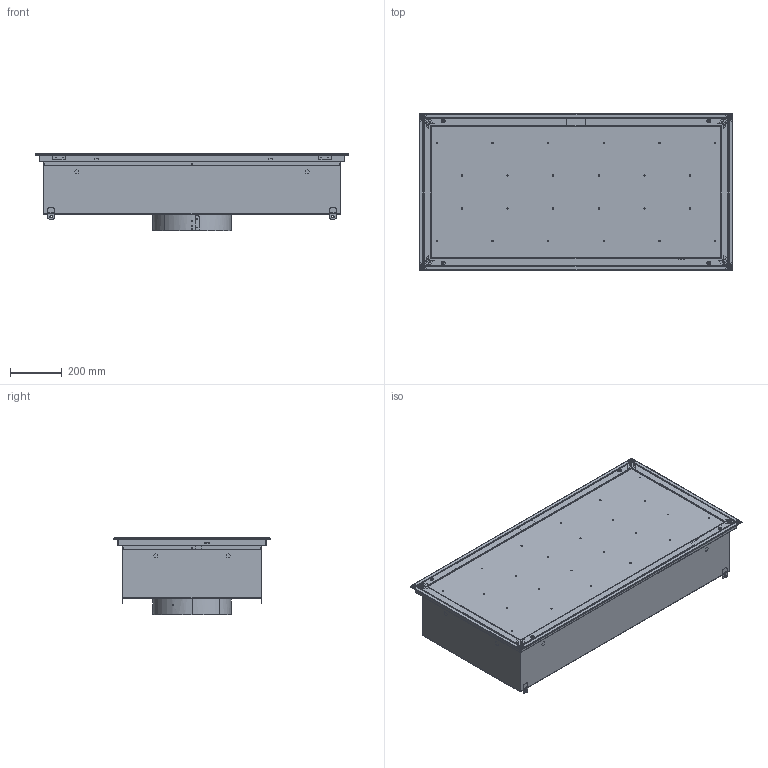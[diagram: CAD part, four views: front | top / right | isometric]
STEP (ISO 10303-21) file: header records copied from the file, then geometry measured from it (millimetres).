
FILE_DESCRIPTION (( 'STEP AP214' ), '1' );
FILE_NAME ('48 X 24_FRD-HEPA_.STEP', '2025-07-25T18:57:50', ( '' ), ( '' ), 'SwSTEP 2.0', 'SolidWorks 2024', '' );
FILE_SCHEMA (( 'AUTOMOTIVE_DESIGN' ));
Length unit declared in the file: inch
Products named in the file (39): 061325-FRDs_H1Z26_L04_LABEL; "CONCENTRATION"; 061325-FRDs_R2C1-SUB_L04; 061325-FRDs_H1Z24_L04; 061325-FRDs_H1E2_L04; 061325-FRDs_PLASTER-SUB_L04; 061325-FRDs_H1N2_L04; 061325-FRDs_FP1B-SUB_L04; 061325-FRDs_FP1B20-A3_L04; 061325-FRDs_H2E2_L04_WELD CLIP, BOB FRAME; 061325-FRDs_H1E1_L04; 061325-FRDs_Port-SUB_L04; 061325-FRDs_FACE-SUB_L04; 061325-FRDs_FP1B20-A1_L04; 061325-FRDs_FP1B20-A2_L04; 061325-FRDs_FC3E-A2_L04; 061325-FRDs_H2G12_L04; 061325-FRDs_P1B1B_L04; 061325-FRDs_FC3E-A4_L04; 061325-FRDs_H1F1_L04_1_4 TURN SPRING; 061325-FRDs_PLENUM MASTER_L04; 061325-FRDs_H1E3_L04; 061325-FRDs_R2C1_L04; 061325-FRDs_H2E5_L04; 061325-FRDs_FC3E-A3_L04; 061325-FRDs_P1B1B-SUB_L04; 061325-FRDs_H2E11_L04_GUIDE, HEPA FILTER, SWING ARM; 061325-FRDs_H1Z25_L04_LABEL; "CHALLENGE."; 48 X 24_FRD-HEPA_; 061325-FRDs_PERF-SUB_L04; 061325-FRDs_H1P11_L04; 061325-FRDs_H2E1_L04_WELD CLIP; 40º BEVEL FRAME; 061325-FRDs_H1V31_L04_WASHER, TEFLON: 0.50"OD x 0.25"ID x 0.025"th; 061325-FRDs_H2E12_L04_CLIP, HEPA FILTER, SWING ARM; 061325-FRDs_FP1B20-A4_L04; 061325-FRDs_FC3E-A1_L04; 061325-FRDs_SAFETYCABLE-ASSY_L04; 061325-FRDs_H1T7_L04_9531K23; 061325-FRDs_C1C1C112_L04; 061325-FRDs_FC3E-SUB_L04
Assembly tree (76 placements, depth 5):
  48 X 24_FRD-HEPA_
    061325-FRDs_PLASTER-SUB_L04
      061325-FRDs_FC3E-SUB_L04
        061325-FRDs_FC3E-A1_L04
        061325-FRDs_FC3E-A2_L04
        061325-FRDs_FC3E-A3_L04
        061325-FRDs_FC3E-A4_L04
        061325-FRDs_H2E2_L04_WELD CLIP, BOB FRAME  x4
        061325-FRDs_H2G12_L04  x4
        061325-FRDs_H1F1_L04_1_4 TURN SPRING  x4
        061325-FRDs_H2E11_L04_GUIDE, HEPA FILTER, SWING ARM  x6
        061325-FRDs_H2E12_L04_CLIP, HEPA FILTER, SWING ARM  x6
        061325-FRDs_H1V31_L04_WASHER, TEFLON: 0.50"OD x 0.25"ID x 0.025"th  x6
        061325-FRDs_H1Z25_L04_LABEL; "CHALLENGE."
        061325-FRDs_H1Z26_L04_LABEL; "CONCENTRATION"
      061325-FRDs_Port-SUB_L04  x2
        061325-FRDs_H1P11_L04
        061325-FRDs_H1T7_L04_9531K23
    061325-FRDs_FACE-SUB_L04
      061325-FRDs_FP1B-SUB_L04
        061325-FRDs_FP1B20-A1_L04
        061325-FRDs_FP1B20-A2_L04
        061325-FRDs_FP1B20-A3_L04
        061325-FRDs_FP1B20-A4_L04
        061325-FRDs_H2E1_L04_WELD CLIP; 40º BEVEL FRAME  x4
        061325-FRDs_H1E1_L04  x4
        061325-FRDs_H1E2_L04  x4
        061325-FRDs_SAFETYCABLE-ASSY_L04  x2
          061325-FRDs_H1N2_L04
          061325-FRDs_H1E3_L04
        061325-FRDs_H1Z24_L04
    061325-FRDs_PERF-SUB_L04
      061325-FRDs_R2C1-SUB_L04
        061325-FRDs_R2C1_L04
    061325-FRDs_PLENUM MASTER_L04
      061325-FRDs_P1B1B-SUB_L04
        061325-FRDs_P1B1B_L04
        061325-FRDs_H2E5_L04  x4
    061325-FRDs_C1C1C112_L04
Bounding box: 1212.85 x 603.25 x 299.81 mm (x, y, z)
Volume: 2111417.5 mm3; surface area: 5065802.7 mm2
Topology: 76 solids, 76 shells, 2656 faces, 6446 edges, 4026 vertices
Faces by surface type: plane 1215, cylinder 948, torus 244, bspline 205, cone 24, sphere 20
Entity records: 51803 total; most frequent: CARTESIAN_POINT 17371, ORIENTED_EDGE 6932, DIRECTION 6672, EDGE_CURVE 3466, AXIS2_PLACEMENT_3D 2410, VERTEX_POINT 2162, LINE 1852, VECTOR 1852
